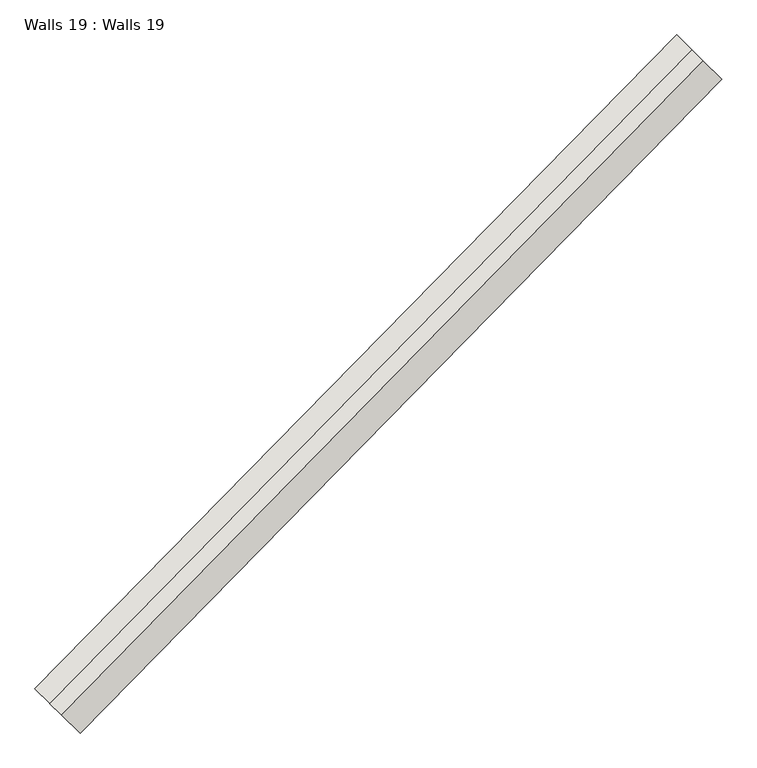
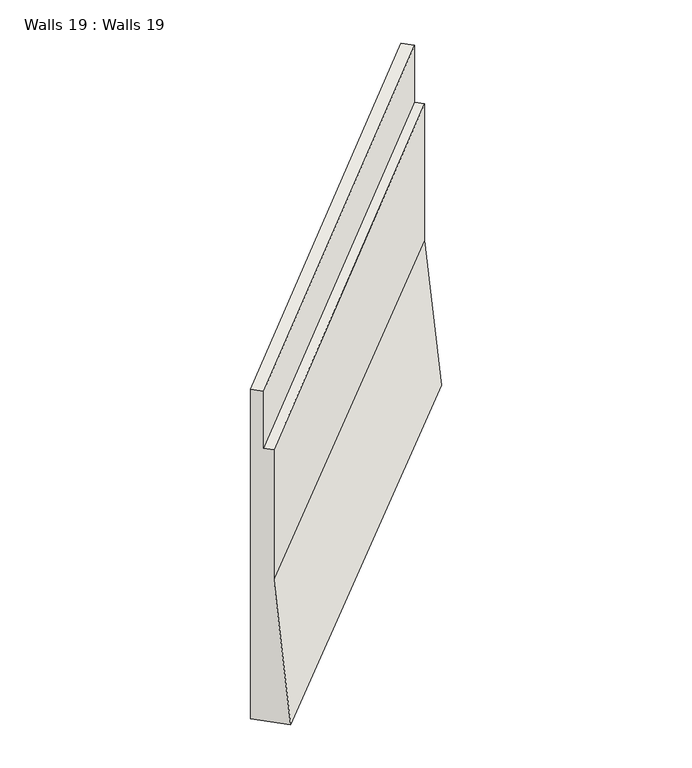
"""IFC4 building model written with IfcOpenShell, lengths in millimetres: wall geometry, Walls 19 : Walls 19."""

from ifc_helpers import new_model, si_unit, origin, place, context, project, spatial, faceted_brep, source, transform, mapped, element, save


def walls_19_walls_19_74a5c984(model_context):
    return source(origin(), model_context, "Body", "Brep", [
        faceted_brep([(-233258.8675804, -393536.4541262, 637960.0), (-233258.8675804, -393536.4541262, 640250.0), (-233365.9221542, -393431.3864345, 640250.0), (-233365.9221542, -393431.3864345, 641250.0), (-233508.6615858, -393291.2961789, 641250.0), (-233508.6615858, -393291.2961789, 635460.0), (-233080.4411059, -393711.5690901, 635460.0), (-227164.9280241, -387327.2751565, 638030.0), (-226986.5015496, -387502.3901204, 635530.0), (-227414.7220295, -387082.1172092, 635530.0), (-227414.7220295, -387082.1172092, 641430.0), (-227271.9825979, -387222.2074648, 641430.0), (-227271.9825979, -387222.2074648, 640430.0), (-227164.9280241, -387327.2751565, 640430.0)], [[[0, 1, 2, 3, 4, 5, 6]], [[7, 8, 9, 10, 11, 12, 13]], [[7, 13, 1, 0]], [[13, 12, 2, 1]], [[12, 11, 3, 2]], [[11, 10, 4, 3]], [[10, 9, 5, 4]], [[9, 8, 6, 5]], [[8, 7, 0, 6]]]),
    ])


if __name__ == "__main__":
    model = new_model("IFC4")
    model_context = context("Model", 3, world=origin())
    ifc_project = project(units=[si_unit("LENGTHUNIT", "METRE", prefix="MILLI")], contexts=[model_context])
    site = spatial("IfcSite", under=ifc_project)
    building = spatial("IfcBuilding", under=site)
    placement = place(None, origin())
    walls_19_walls_19_shape = walls_19_walls_19_74a5c984(model_context)
    element("IfcWall", 1, ObjectType="Walls 19 : Walls 19", at=placement, inside=building, context=model_context, shape_type="MappedRepresentation", body=[
        mapped(walls_19_walls_19_shape, transform((0.0, 0.0, 0.0), x_axis=(1.0, 0.0, 0.0), y_axis=(0.0, 1.0, 0.0), z_axis=(0.0, 0.0, 1.0))),
    ])
    save(model, "model.ifc")
